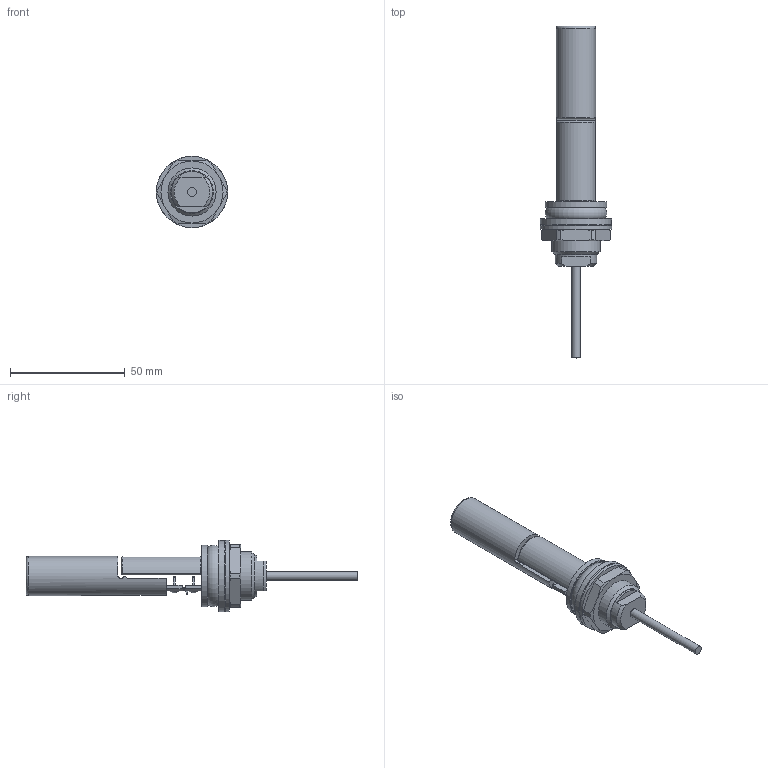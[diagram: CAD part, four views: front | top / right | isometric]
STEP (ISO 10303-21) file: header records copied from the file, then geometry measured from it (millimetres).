
FILE_DESCRIPTION(/* description */ ('Katalogmodell Elobau'),/* implementation_level */ '2;1');
FILE_NAME(/* name */ '205KS__D_A.stp',/* time_stamp */ '2014-10-02T11:34:28+02:00',/* author */ ('Elobau GmbH & Co. KG'),/* organization */ ('Elobau GmbH & Co. KG'),/* preprocessor_version */ 'ST-DEVELOPER v15',/* originating_system */ 'SIEMENS PLM Software NX 8.5',/* authorisation */ '');
FILE_SCHEMA (('AUTOMOTIVE_DESIGN { 1 0 10303 214 3 1 1 1 }'));
Length unit declared in the file: millimetre
Products named in the file (1): 205KS..D_A
Bounding box: 31 x 144.5 x 31 mm (x, y, z)
Volume: 29434.5 mm3; surface area: 9966.7 mm2
Topology: 2 solids, 2 shells, 122 faces, 296 edges, 191 vertices
Faces by surface type: plane 64, cylinder 23, cone 19, torus 8, sphere 4, bspline 4
Full cylindrical faces by diameter (mm): 3.8 x1, 17 x1, 18 x1, 20.95 x1, 26.7 x1, 31 x2
Entity records: 4490 total; most frequent: CARTESIAN_POINT 866, DIRECTION 559, ORIENTED_EDGE 552, EDGE_CURVE 276, AXIS2_PLACEMENT_3D 216, VERTEX_POINT 187, EDGE_LOOP 149, LINE 127
